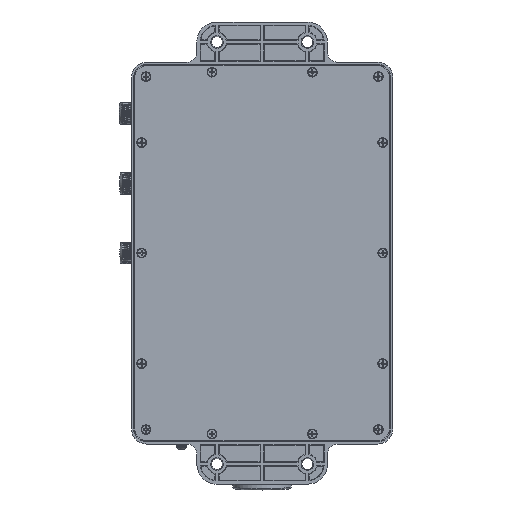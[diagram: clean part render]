
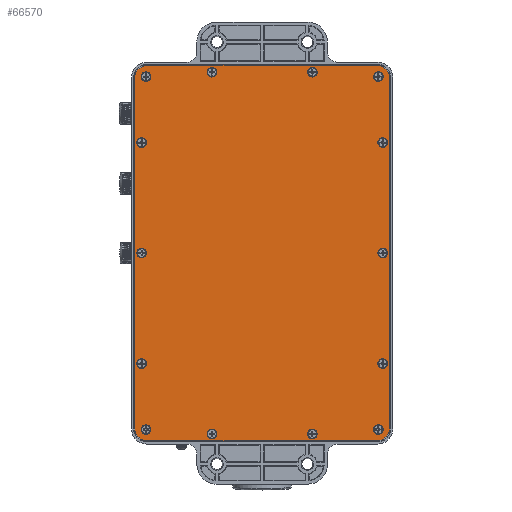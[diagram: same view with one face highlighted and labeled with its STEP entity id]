
A CAD part, top view. The second image highlights one B-rep face of the part: STEP entity #66570.
In plain terms, the highlighted planar face has unit normal (0, 0, 1).
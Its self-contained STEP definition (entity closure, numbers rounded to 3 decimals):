
#7404=CIRCLE('',#71837,8.255);
#7405=CIRCLE('',#71840,8.255);
#7406=CIRCLE('',#71843,8.255);
#7407=CIRCLE('',#71846,8.255);
#7408=CIRCLE('',#71849,3.048);
#7409=CIRCLE('',#71850,3.048);
#7410=CIRCLE('',#71851,3.048);
#7411=CIRCLE('',#71852,3.048);
#7412=CIRCLE('',#71853,3.048);
#7413=CIRCLE('',#71854,3.048);
#7414=CIRCLE('',#71855,3.048);
#7415=CIRCLE('',#71856,3.048);
#7416=CIRCLE('',#71857,3.048);
#7417=CIRCLE('',#71858,3.048);
#7418=CIRCLE('',#71859,3.048);
#7419=CIRCLE('',#71860,3.048);
#7420=CIRCLE('',#71861,3.048);
#7421=CIRCLE('',#71862,3.048);
#22454=ORIENTED_EDGE('',*,*,#34951,.T.);
#22455=ORIENTED_EDGE('',*,*,#34952,.T.);
#22456=ORIENTED_EDGE('',*,*,#34953,.T.);
#22457=ORIENTED_EDGE('',*,*,#34954,.T.);
#22458=ORIENTED_EDGE('',*,*,#34955,.T.);
#22459=ORIENTED_EDGE('',*,*,#34956,.T.);
#22460=ORIENTED_EDGE('',*,*,#34957,.T.);
#22461=ORIENTED_EDGE('',*,*,#34958,.T.);
#22462=ORIENTED_EDGE('',*,*,#34959,.T.);
#22463=ORIENTED_EDGE('',*,*,#34960,.T.);
#22464=ORIENTED_EDGE('',*,*,#34961,.T.);
#22465=ORIENTED_EDGE('',*,*,#34962,.T.);
#22466=ORIENTED_EDGE('',*,*,#34963,.T.);
#22467=ORIENTED_EDGE('',*,*,#34964,.T.);
#22468=ORIENTED_EDGE('',*,*,#34935,.F.);
#22469=ORIENTED_EDGE('',*,*,#34950,.F.);
#22470=ORIENTED_EDGE('',*,*,#34948,.F.);
#22471=ORIENTED_EDGE('',*,*,#34946,.F.);
#22472=ORIENTED_EDGE('',*,*,#34944,.F.);
#22473=ORIENTED_EDGE('',*,*,#34942,.F.);
#22474=ORIENTED_EDGE('',*,*,#34940,.F.);
#22475=ORIENTED_EDGE('',*,*,#34938,.F.);
#34935=EDGE_CURVE('',#42318,#42319,#7404,.T.);
#34938=EDGE_CURVE('',#42319,#42320,#47950,.T.);
#34940=EDGE_CURVE('',#42320,#42321,#7405,.T.);
#34942=EDGE_CURVE('',#42321,#42322,#47953,.T.);
#34944=EDGE_CURVE('',#42322,#42323,#7406,.T.);
#34946=EDGE_CURVE('',#42323,#42324,#47956,.T.);
#34948=EDGE_CURVE('',#42324,#42325,#7407,.T.);
#34950=EDGE_CURVE('',#42325,#42318,#47959,.T.);
#34951=EDGE_CURVE('',#42326,#42326,#7408,.T.);
#34952=EDGE_CURVE('',#42327,#42327,#7409,.T.);
#34953=EDGE_CURVE('',#42328,#42328,#7410,.T.);
#34954=EDGE_CURVE('',#42329,#42329,#7411,.T.);
#34955=EDGE_CURVE('',#42330,#42330,#7412,.T.);
#34956=EDGE_CURVE('',#42331,#42331,#7413,.T.);
#34957=EDGE_CURVE('',#42332,#42332,#7414,.T.);
#34958=EDGE_CURVE('',#42333,#42333,#7415,.T.);
#34959=EDGE_CURVE('',#42334,#42334,#7416,.T.);
#34960=EDGE_CURVE('',#42335,#42335,#7417,.T.);
#34961=EDGE_CURVE('',#42336,#42336,#7418,.T.);
#34962=EDGE_CURVE('',#42337,#42337,#7419,.T.);
#34963=EDGE_CURVE('',#42338,#42338,#7420,.T.);
#34964=EDGE_CURVE('',#42339,#42339,#7421,.T.);
#42318=VERTEX_POINT('',#178529);
#42319=VERTEX_POINT('',#178530);
#42320=VERTEX_POINT('',#178535);
#42321=VERTEX_POINT('',#178539);
#42322=VERTEX_POINT('',#178543);
#42323=VERTEX_POINT('',#178547);
#42324=VERTEX_POINT('',#178551);
#42325=VERTEX_POINT('',#178555);
#42326=VERTEX_POINT('',#178561);
#42327=VERTEX_POINT('',#178563);
#42328=VERTEX_POINT('',#178565);
#42329=VERTEX_POINT('',#178567);
#42330=VERTEX_POINT('',#178569);
#42331=VERTEX_POINT('',#178571);
#42332=VERTEX_POINT('',#178573);
#42333=VERTEX_POINT('',#178575);
#42334=VERTEX_POINT('',#178577);
#42335=VERTEX_POINT('',#178579);
#42336=VERTEX_POINT('',#178581);
#42337=VERTEX_POINT('',#178583);
#42338=VERTEX_POINT('',#178585);
#42339=VERTEX_POINT('',#178587);
#47950=LINE('',#178534,#52695);
#47953=LINE('',#178542,#52698);
#47956=LINE('',#178550,#52701);
#47959=LINE('',#178558,#52704);
#52695=VECTOR('',#86330,1000.);
#52698=VECTOR('',#86339,1000.);
#52701=VECTOR('',#86348,1000.);
#52704=VECTOR('',#86357,1000.);
#56321=EDGE_LOOP('',(#22454));
#56322=EDGE_LOOP('',(#22455));
#56323=EDGE_LOOP('',(#22456));
#56324=EDGE_LOOP('',(#22457));
#56325=EDGE_LOOP('',(#22458));
#56326=EDGE_LOOP('',(#22459));
#56327=EDGE_LOOP('',(#22460));
#56328=EDGE_LOOP('',(#22461));
#56329=EDGE_LOOP('',(#22462));
#56330=EDGE_LOOP('',(#22463));
#56331=EDGE_LOOP('',(#22464));
#56332=EDGE_LOOP('',(#22465));
#56333=EDGE_LOOP('',(#22466));
#56334=EDGE_LOOP('',(#22467));
#56335=EDGE_LOOP('',(#22468,#22469,#22470,#22471,#22472,#22473,#22474,#22475));
#60657=FACE_BOUND('',#56321,.T.);
#60658=FACE_BOUND('',#56322,.T.);
#60659=FACE_BOUND('',#56323,.T.);
#60660=FACE_BOUND('',#56324,.T.);
#60661=FACE_BOUND('',#56325,.T.);
#60662=FACE_BOUND('',#56326,.T.);
#60663=FACE_BOUND('',#56327,.T.);
#60664=FACE_BOUND('',#56328,.T.);
#60665=FACE_BOUND('',#56329,.T.);
#60666=FACE_BOUND('',#56330,.T.);
#60667=FACE_BOUND('',#56331,.T.);
#60668=FACE_BOUND('',#56332,.T.);
#60669=FACE_BOUND('',#56333,.T.);
#60670=FACE_BOUND('',#56334,.T.);
#60671=FACE_BOUND('',#56335,.T.);
#63489=PLANE('',#71848);
#66570=ADVANCED_FACE('',(#60657,#60658,#60659,#60660,#60661,#60662,#60663,
#60664,#60665,#60666,#60667,#60668,#60669,#60670,#60671),#63489,.F.);
#71837=AXIS2_PLACEMENT_3D('',#178528,#86324,#86325);
#71840=AXIS2_PLACEMENT_3D('',#178538,#86334,#86335);
#71843=AXIS2_PLACEMENT_3D('',#178546,#86343,#86344);
#71846=AXIS2_PLACEMENT_3D('',#178554,#86352,#86353);
#71848=AXIS2_PLACEMENT_3D('',#178559,#86358,#86359);
#71849=AXIS2_PLACEMENT_3D('',#178560,#86360,#86361);
#71850=AXIS2_PLACEMENT_3D('',#178562,#86362,#86363);
#71851=AXIS2_PLACEMENT_3D('',#178564,#86364,#86365);
#71852=AXIS2_PLACEMENT_3D('',#178566,#86366,#86367);
#71853=AXIS2_PLACEMENT_3D('',#178568,#86368,#86369);
#71854=AXIS2_PLACEMENT_3D('',#178570,#86370,#86371);
#71855=AXIS2_PLACEMENT_3D('',#178572,#86372,#86373);
#71856=AXIS2_PLACEMENT_3D('',#178574,#86374,#86375);
#71857=AXIS2_PLACEMENT_3D('',#178576,#86376,#86377);
#71858=AXIS2_PLACEMENT_3D('',#178578,#86378,#86379);
#71859=AXIS2_PLACEMENT_3D('',#178580,#86380,#86381);
#71860=AXIS2_PLACEMENT_3D('',#178582,#86382,#86383);
#71861=AXIS2_PLACEMENT_3D('',#178584,#86384,#86385);
#71862=AXIS2_PLACEMENT_3D('',#178586,#86386,#86387);
#86324=DIRECTION('',(0.,0.,-1.));
#86325=DIRECTION('',(-1.,0.,0.));
#86330=DIRECTION('',(-1.,0.,0.));
#86334=DIRECTION('',(0.,0.,-1.));
#86335=DIRECTION('',(1.,0.,0.));
#86339=DIRECTION('',(0.,1.,0.));
#86343=DIRECTION('',(0.,0.,-1.));
#86344=DIRECTION('',(1.,0.,0.));
#86348=DIRECTION('',(1.,0.,0.));
#86352=DIRECTION('',(0.,0.,-1.));
#86353=DIRECTION('',(-1.,0.,0.));
#86357=DIRECTION('',(0.,-1.,0.));
#86358=DIRECTION('',(0.,0.,-1.));
#86359=DIRECTION('',(1.,0.,0.));
#86360=DIRECTION('',(0.,0.,-1.));
#86361=DIRECTION('',(0.,-1.,0.));
#86362=DIRECTION('',(0.,0.,-1.));
#86363=DIRECTION('',(0.,-1.,0.));
#86364=DIRECTION('',(0.,0.,-1.));
#86365=DIRECTION('',(0.,-1.,0.));
#86366=DIRECTION('',(0.,0.,-1.));
#86367=DIRECTION('',(0.,-1.,0.));
#86368=DIRECTION('',(0.,0.,-1.));
#86369=DIRECTION('',(0.,-1.,0.));
#86370=DIRECTION('',(0.,0.,-1.));
#86371=DIRECTION('',(0.,-1.,0.));
#86372=DIRECTION('',(0.,0.,-1.));
#86373=DIRECTION('',(0.,-1.,0.));
#86374=DIRECTION('',(0.,0.,-1.));
#86375=DIRECTION('',(0.,-1.,0.));
#86376=DIRECTION('',(0.,0.,-1.));
#86377=DIRECTION('',(0.,-1.,0.));
#86378=DIRECTION('',(0.,0.,-1.));
#86379=DIRECTION('',(0.,-1.,0.));
#86380=DIRECTION('',(0.,0.,-1.));
#86381=DIRECTION('',(0.,-1.,0.));
#86382=DIRECTION('',(0.,0.,-1.));
#86383=DIRECTION('',(0.,-1.,0.));
#86384=DIRECTION('',(0.,0.,-1.));
#86385=DIRECTION('',(0.,-1.,0.));
#86386=DIRECTION('',(0.,0.,-1.));
#86387=DIRECTION('',(0.,-1.,0.));
#178528=CARTESIAN_POINT('',(72.327,-110.427,0.));
#178529=CARTESIAN_POINT('',(80.582,-110.427,0.));
#178530=CARTESIAN_POINT('',(72.327,-118.682,0.));
#178534=CARTESIAN_POINT('',(72.327,-118.682,0.));
#178535=CARTESIAN_POINT('',(-72.327,-118.682,0.));
#178538=CARTESIAN_POINT('',(-72.327,-110.427,0.));
#178539=CARTESIAN_POINT('',(-80.582,-110.427,0.));
#178542=CARTESIAN_POINT('',(-80.582,110.427,0.));
#178543=CARTESIAN_POINT('',(-80.582,110.427,0.));
#178546=CARTESIAN_POINT('',(-72.327,110.427,0.));
#178547=CARTESIAN_POINT('',(-72.327,118.682,0.));
#178550=CARTESIAN_POINT('',(72.327,118.682,0.));
#178551=CARTESIAN_POINT('',(72.327,118.682,0.));
#178554=CARTESIAN_POINT('',(72.327,110.427,0.));
#178555=CARTESIAN_POINT('',(80.582,110.427,0.));
#178558=CARTESIAN_POINT('',(80.582,110.427,0.));
#178559=CARTESIAN_POINT('',(72.327,-110.427,0.));
#178560=CARTESIAN_POINT('',(-73.41,111.51,0.));
#178561=CARTESIAN_POINT('',(-73.41,108.462,0.));
#178562=CARTESIAN_POINT('',(73.41,111.51,0.));
#178563=CARTESIAN_POINT('',(73.41,108.462,0.));
#178564=CARTESIAN_POINT('',(-73.41,-111.51,0.));
#178565=CARTESIAN_POINT('',(-73.41,-114.558,0.));
#178566=CARTESIAN_POINT('',(73.41,-111.51,0.));
#178567=CARTESIAN_POINT('',(73.41,-114.558,0.));
#178568=CARTESIAN_POINT('',(-31.75,114.3,0.));
#178569=CARTESIAN_POINT('',(-31.75,111.252,0.));
#178570=CARTESIAN_POINT('',(31.75,114.3,0.));
#178571=CARTESIAN_POINT('',(31.75,111.252,0.));
#178572=CARTESIAN_POINT('',(-31.75,-114.3,0.));
#178573=CARTESIAN_POINT('',(-31.75,-117.348,0.));
#178574=CARTESIAN_POINT('',(31.75,-114.3,0.));
#178575=CARTESIAN_POINT('',(31.75,-117.348,0.));
#178576=CARTESIAN_POINT('',(-76.2,-69.85,0.));
#178577=CARTESIAN_POINT('',(-76.2,-72.898,0.));
#178578=CARTESIAN_POINT('',(-76.2,0.,0.));
#178579=CARTESIAN_POINT('',(-76.2,-3.048,0.));
#178580=CARTESIAN_POINT('',(-76.2,69.85,0.));
#178581=CARTESIAN_POINT('',(-76.2,66.802,0.));
#178582=CARTESIAN_POINT('',(76.2,69.85,0.));
#178583=CARTESIAN_POINT('',(76.2,66.802,0.));
#178584=CARTESIAN_POINT('',(76.2,0.,0.));
#178585=CARTESIAN_POINT('',(76.2,-3.048,0.));
#178586=CARTESIAN_POINT('',(76.2,-69.85,0.));
#178587=CARTESIAN_POINT('',(76.2,-72.898,0.));
